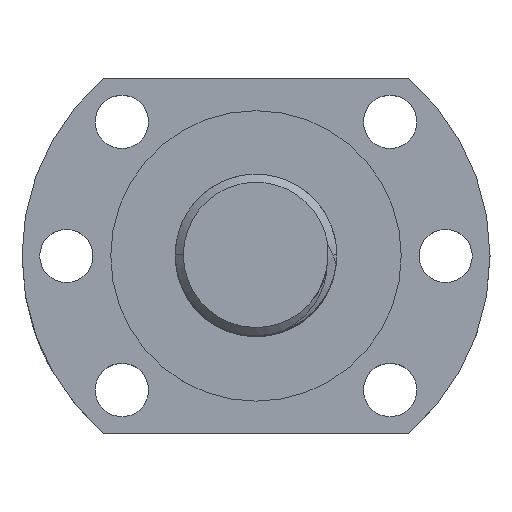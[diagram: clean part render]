
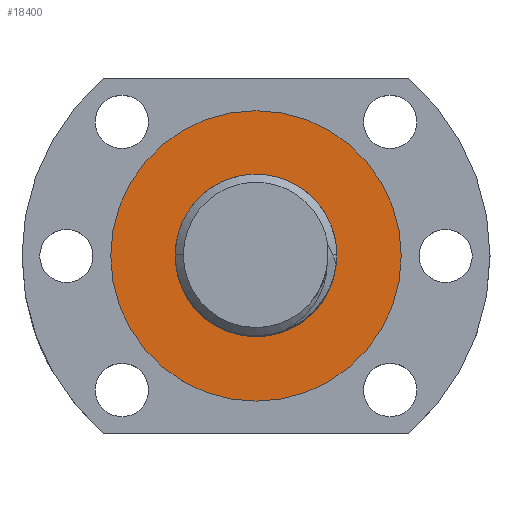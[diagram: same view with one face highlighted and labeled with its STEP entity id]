
A CAD part, top view. The second image highlights one B-rep face of the part: STEP entity #18400.
In plain terms, the highlighted planar face has unit normal (0, 0, 1) as drawn and (0, -1, 0) by its records, which use the part's own axes.
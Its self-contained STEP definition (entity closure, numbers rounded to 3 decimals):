
#116 = DIRECTION ( 'NONE',  ( 1., 0., 0. ) ) ;
#220 = CARTESIAN_POINT ( 'NONE',  ( 0., -25.5, 0. ) ) ;
#357 = CARTESIAN_POINT ( 'NONE',  ( 0., -25.5, -10. ) ) ;
#914 = CIRCLE ( 'NONE', #8719, 10. ) ;
#1706 = VERTEX_POINT ( 'NONE', #1933 ) ;
#1714 = EDGE_CURVE ( 'NONE', #15524, #1706, #914, .T. ) ;
#1933 = CARTESIAN_POINT ( 'NONE',  ( 0., -25.5, 10. ) ) ;
#1975 = VERTEX_POINT ( 'NONE', #8236 ) ;
#2841 = DIRECTION ( 'NONE',  ( 0., -1., 0. ) ) ;
#3379 = FACE_OUTER_BOUND ( 'NONE', #15573, .T. ) ;
#3563 = CARTESIAN_POINT ( 'NONE',  ( 0., -25.5, 0. ) ) ;
#4323 = AXIS2_PLACEMENT_3D ( 'NONE', #19554, #5324, #5419 ) ;
#4904 = DIRECTION ( 'NONE',  ( 0., 1., 0. ) ) ;
#4970 = CIRCLE ( 'NONE', #16327, 18. ) ;
#5324 = DIRECTION ( 'NONE',  ( 0., 1., 0. ) ) ;
#5419 = DIRECTION ( 'NONE',  ( 1., 0., 0. ) ) ;
#5509 = ORIENTED_EDGE ( 'NONE', *, *, #15251, .F. ) ;
#5630 = AXIS2_PLACEMENT_3D ( 'NONE', #13717, #2841, #8480 ) ;
#5943 = CIRCLE ( 'NONE', #4323, 18. ) ;
#6350 = VERTEX_POINT ( 'NONE', #17178 ) ;
#8236 = CARTESIAN_POINT ( 'NONE',  ( 0., -25.5, 18. ) ) ;
#8480 = DIRECTION ( 'NONE',  ( 1., 0., 0. ) ) ;
#8719 = AXIS2_PLACEMENT_3D ( 'NONE', #3563, #18603, #15543 ) ;
#9583 = FACE_BOUND ( 'NONE', #10496, .T. ) ;
#10496 = EDGE_LOOP ( 'NONE', ( #15165, #11951 ) ) ;
#11312 = DIRECTION ( 'NONE',  ( 1., 0., 0. ) ) ;
#11951 = ORIENTED_EDGE ( 'NONE', *, *, #17673, .F. ) ;
#13361 = ORIENTED_EDGE ( 'NONE', *, *, #18288, .F. ) ;
#13717 = CARTESIAN_POINT ( 'NONE',  ( 0., -25.5, 0. ) ) ;
#14454 = PLANE ( 'NONE',  #18937 ) ;
#15165 = ORIENTED_EDGE ( 'NONE', *, *, #1714, .F. ) ;
#15251 = EDGE_CURVE ( 'NONE', #1975, #6350, #5943, .T. ) ;
#15524 = VERTEX_POINT ( 'NONE', #357 ) ;
#15543 = DIRECTION ( 'NONE',  ( 1., 0., 0. ) ) ;
#15573 = EDGE_LOOP ( 'NONE', ( #13361, #5509 ) ) ;
#15775 = DIRECTION ( 'NONE',  ( 0., 1., 0. ) ) ;
#16327 = AXIS2_PLACEMENT_3D ( 'NONE', #220, #4904, #11312 ) ;
#17178 = CARTESIAN_POINT ( 'NONE',  ( 0., -25.5, -18. ) ) ;
#17305 = CIRCLE ( 'NONE', #5630, 10. ) ;
#17673 = EDGE_CURVE ( 'NONE', #1706, #15524, #17305, .T. ) ;
#18288 = EDGE_CURVE ( 'NONE', #6350, #1975, #4970, .T. ) ;
#18400 = ADVANCED_FACE ( 'NONE', ( #3379, #9583 ), #14454, .F. ) ;
#18603 = DIRECTION ( 'NONE',  ( 0., -1., 0. ) ) ;
#18937 = AXIS2_PLACEMENT_3D ( 'NONE', #19037, #15775, #116 ) ;
#19037 = CARTESIAN_POINT ( 'NONE',  ( 0., -25.5, 0. ) ) ;
#19554 = CARTESIAN_POINT ( 'NONE',  ( 0., -25.5, 0. ) ) ;
